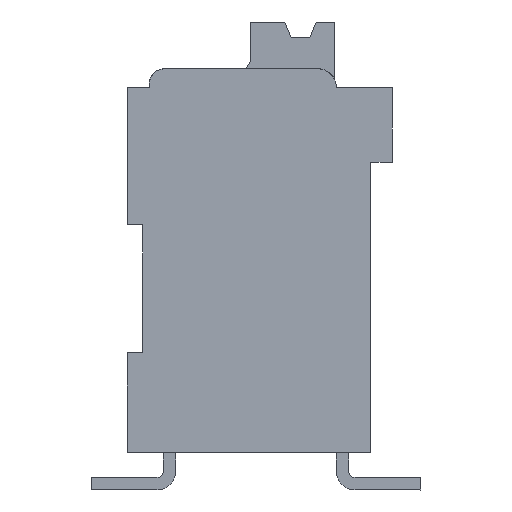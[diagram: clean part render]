
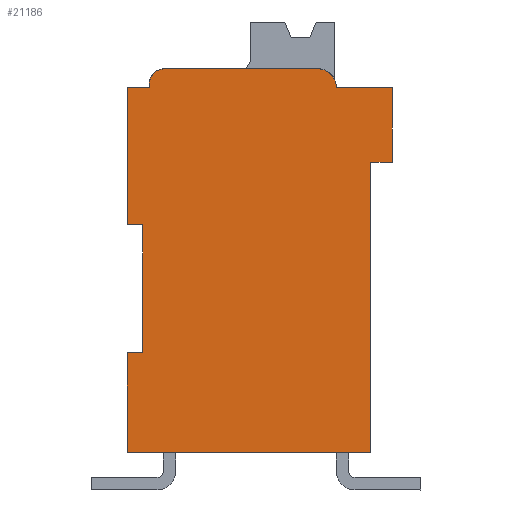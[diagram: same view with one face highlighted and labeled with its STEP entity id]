
A CAD part, left-side view. The second image highlights one B-rep face of the part: STEP entity #21186.
In plain terms, the highlighted planar face has unit normal (-1, 0, 0).
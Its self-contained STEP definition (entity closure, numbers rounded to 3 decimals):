
#578 = VECTOR ( 'NONE', #37339, 1000. ) ;
#753 = AXIS2_PLACEMENT_3D ( 'NONE', #3892, #11519, #34990 ) ;
#835 = ORIENTED_EDGE ( 'NONE', *, *, #33493, .T. ) ;
#995 = CIRCLE ( 'NONE', #6671, 0.6 ) ;
#1897 = EDGE_CURVE ( 'NONE', #21088, #11909, #20039, .T. ) ;
#2304 = CARTESIAN_POINT ( 'NONE',  ( -10.85, 2.95, 13.5 ) ) ;
#2538 = EDGE_CURVE ( 'NONE', #34051, #15810, #995, .T. ) ;
#3224 = VERTEX_POINT ( 'NONE', #19499 ) ;
#3319 = DIRECTION ( 'NONE',  ( 0., -1., 0. ) ) ;
#3892 = CARTESIAN_POINT ( 'NONE',  ( -10.85, -0.1, 7.35 ) ) ;
#4044 = VECTOR ( 'NONE', #31471, 1000. ) ;
#4407 = ORIENTED_EDGE ( 'NONE', *, *, #2538, .T. ) ;
#4498 = ORIENTED_EDGE ( 'NONE', *, *, #28040, .T. ) ;
#5163 = CARTESIAN_POINT ( 'NONE',  ( -10.85, 3.45, 13. ) ) ;
#5603 = CARTESIAN_POINT ( 'NONE',  ( -10.85, -3.65, 1.2 ) ) ;
#6014 = CARTESIAN_POINT ( 'NONE',  ( -10.85, -3.65, 10.5 ) ) ;
#6671 = AXIS2_PLACEMENT_3D ( 'NONE', #26460, #29789, #13228 ) ;
#6889 = CARTESIAN_POINT ( 'NONE',  ( -10.85, 3.65, 7.35 ) ) ;
#6948 = VECTOR ( 'NONE', #8437, 1000. ) ;
#7217 = DIRECTION ( 'NONE',  ( 0., 0., -1. ) ) ;
#7770 = CARTESIAN_POINT ( 'NONE',  ( -10.85, 4.15, 1.2 ) ) ;
#7844 = EDGE_CURVE ( 'NONE', #41520, #42283, #12097, .T. ) ;
#7984 = LINE ( 'NONE', #38860, #6948 ) ;
#7986 = LINE ( 'NONE', #24536, #40919 ) ;
#8273 = LINE ( 'NONE', #39142, #41023 ) ;
#8437 = DIRECTION ( 'NONE',  ( 0., 0., -1. ) ) ;
#8797 = ORIENTED_EDGE ( 'NONE', *, *, #10555, .T. ) ;
#8892 = AXIS2_PLACEMENT_3D ( 'NONE', #11899, #17952, #14804 ) ;
#9274 = EDGE_CURVE ( 'NONE', #24812, #34051, #7986, .T. ) ;
#10004 = ORIENTED_EDGE ( 'NONE', *, *, #1897, .T. ) ;
#10349 = CARTESIAN_POINT ( 'NONE',  ( -10.85, 3.45, 7.35 ) ) ;
#10555 = EDGE_CURVE ( 'NONE', #29286, #37280, #27344, .T. ) ;
#11106 = VERTEX_POINT ( 'NONE', #7770 ) ;
#11519 = DIRECTION ( 'NONE',  ( -1., 0., 0. ) ) ;
#11701 = VECTOR ( 'NONE', #26176, 1000. ) ;
#11899 = CARTESIAN_POINT ( 'NONE',  ( -10.85, 2.95, 13. ) ) ;
#11909 = VERTEX_POINT ( 'NONE', #36375 ) ;
#12097 = LINE ( 'NONE', #32220, #20949 ) ;
#12452 = VECTOR ( 'NONE', #28153, 1000. ) ;
#12617 = DIRECTION ( 'NONE',  ( 0., 0., -1. ) ) ;
#12812 = ORIENTED_EDGE ( 'NONE', *, *, #37848, .T. ) ;
#12828 = CARTESIAN_POINT ( 'NONE',  ( -10.85, 4.15, 7.35 ) ) ;
#13228 = DIRECTION ( 'NONE',  ( 0., 0., 1. ) ) ;
#13418 = LINE ( 'NONE', #30190, #578 ) ;
#14242 = LINE ( 'NONE', #20554, #12452 ) ;
#14804 = DIRECTION ( 'NONE',  ( 0., 0., 1. ) ) ;
#15077 = FACE_OUTER_BOUND ( 'NONE', #28515, .T. ) ;
#15394 = LINE ( 'NONE', #18552, #24734 ) ;
#15729 = EDGE_CURVE ( 'NONE', #16316, #29286, #23800, .T. ) ;
#15810 = VERTEX_POINT ( 'NONE', #29336 ) ;
#16083 = EDGE_CURVE ( 'NONE', #30170, #39753, #36644, .T. ) ;
#16186 = LINE ( 'NONE', #12828, #42834 ) ;
#16316 = VERTEX_POINT ( 'NONE', #2304 ) ;
#16726 = LINE ( 'NONE', #23660, #27528 ) ;
#16771 = EDGE_CURVE ( 'NONE', #37280, #3224, #14242, .T. ) ;
#17952 = DIRECTION ( 'NONE',  ( -1., 0., 0. ) ) ;
#18187 = ORIENTED_EDGE ( 'NONE', *, *, #34668, .T. ) ;
#18376 = DIRECTION ( 'NONE',  ( 0., -1., 0. ) ) ;
#18552 = CARTESIAN_POINT ( 'NONE',  ( -10.85, -4.35, 7.35 ) ) ;
#19372 = VERTEX_POINT ( 'NONE', #5603 ) ;
#19499 = CARTESIAN_POINT ( 'NONE',  ( -10.85, 4.15, 12.9 ) ) ;
#19953 = VECTOR ( 'NONE', #7217, 1000. ) ;
#20039 = LINE ( 'NONE', #40868, #29851 ) ;
#20554 = CARTESIAN_POINT ( 'NONE',  ( -10.85, 3.8, 12.9 ) ) ;
#20949 = VECTOR ( 'NONE', #18376, 1000. ) ;
#21088 = VERTEX_POINT ( 'NONE', #37487 ) ;
#21160 = DIRECTION ( 'NONE',  ( 0., 1., 0. ) ) ;
#21186 = ADVANCED_FACE ( 'NONE', ( #15077 ), #24496, .T. ) ;
#22129 = DIRECTION ( 'NONE',  ( 0., 1., 0. ) ) ;
#23660 = CARTESIAN_POINT ( 'NONE',  ( -10.85, -0.1, 1.2 ) ) ;
#23800 = CIRCLE ( 'NONE', #8892, 0.5 ) ;
#23890 = LINE ( 'NONE', #6889, #4044 ) ;
#24372 = CARTESIAN_POINT ( 'NONE',  ( -10.85, -2.55, 12.9 ) ) ;
#24496 = PLANE ( 'NONE',  #753 ) ;
#24536 = CARTESIAN_POINT ( 'NONE',  ( -10.85, -0.1, 12.9 ) ) ;
#24734 = VECTOR ( 'NONE', #35975, 1000. ) ;
#24812 = VERTEX_POINT ( 'NONE', #26297 ) ;
#25724 = CARTESIAN_POINT ( 'NONE',  ( -10.85, -0.1, 4.4 ) ) ;
#26176 = DIRECTION ( 'NONE',  ( 0., 1., 0. ) ) ;
#26297 = CARTESIAN_POINT ( 'NONE',  ( -10.85, -4.35, 12.9 ) ) ;
#26460 = CARTESIAN_POINT ( 'NONE',  ( -10.85, -1.95, 12.9 ) ) ;
#27344 = LINE ( 'NONE', #10349, #19953 ) ;
#27500 = ORIENTED_EDGE ( 'NONE', *, *, #38698, .T. ) ;
#27528 = VECTOR ( 'NONE', #3319, 1000. ) ;
#27795 = EDGE_CURVE ( 'NONE', #42283, #24812, #15394, .T. ) ;
#28040 = EDGE_CURVE ( 'NONE', #11909, #30170, #23890, .T. ) ;
#28042 = CARTESIAN_POINT ( 'NONE',  ( -10.85, 3.65, 4.4 ) ) ;
#28093 = ORIENTED_EDGE ( 'NONE', *, *, #16771, .T. ) ;
#28153 = DIRECTION ( 'NONE',  ( 0., 1., 0. ) ) ;
#28515 = EDGE_LOOP ( 'NONE', ( #28093, #18187, #10004, #4498, #41479, #835, #27500, #33825, #42875, #30407, #30684, #4407, #12812, #33109, #8797 ) ) ;
#29286 = VERTEX_POINT ( 'NONE', #5163 ) ;
#29336 = CARTESIAN_POINT ( 'NONE',  ( -10.85, -1.95, 13.5 ) ) ;
#29789 = DIRECTION ( 'NONE',  ( -1., 0., 0. ) ) ;
#29851 = VECTOR ( 'NONE', #30991, 1000. ) ;
#30170 = VERTEX_POINT ( 'NONE', #28042 ) ;
#30190 = CARTESIAN_POINT ( 'NONE',  ( -10.85, -3.65, 5.85 ) ) ;
#30407 = ORIENTED_EDGE ( 'NONE', *, *, #27795, .T. ) ;
#30684 = ORIENTED_EDGE ( 'NONE', *, *, #9274, .T. ) ;
#30991 = DIRECTION ( 'NONE',  ( 0., -1., 0. ) ) ;
#31471 = DIRECTION ( 'NONE',  ( 0., 0., -1. ) ) ;
#32220 = CARTESIAN_POINT ( 'NONE',  ( -10.85, -0.1, 10.5 ) ) ;
#33109 = ORIENTED_EDGE ( 'NONE', *, *, #15729, .T. ) ;
#33493 = EDGE_CURVE ( 'NONE', #39753, #11106, #7984, .T. ) ;
#33825 = ORIENTED_EDGE ( 'NONE', *, *, #33976, .F. ) ;
#33976 = EDGE_CURVE ( 'NONE', #41520, #19372, #13418, .T. ) ;
#34051 = VERTEX_POINT ( 'NONE', #24372 ) ;
#34668 = EDGE_CURVE ( 'NONE', #3224, #21088, #16186, .T. ) ;
#34990 = DIRECTION ( 'NONE',  ( 0., 0., -1. ) ) ;
#35975 = DIRECTION ( 'NONE',  ( 0., 0., 1. ) ) ;
#36375 = CARTESIAN_POINT ( 'NONE',  ( -10.85, 3.65, 8.5 ) ) ;
#36644 = LINE ( 'NONE', #25724, #11701 ) ;
#37280 = VERTEX_POINT ( 'NONE', #42272 ) ;
#37339 = DIRECTION ( 'NONE',  ( 0., 0., -1. ) ) ;
#37487 = CARTESIAN_POINT ( 'NONE',  ( -10.85, 4.15, 8.5 ) ) ;
#37708 = CARTESIAN_POINT ( 'NONE',  ( -10.85, 4.15, 4.4 ) ) ;
#37848 = EDGE_CURVE ( 'NONE', #15810, #16316, #8273, .T. ) ;
#38698 = EDGE_CURVE ( 'NONE', #11106, #19372, #16726, .T. ) ;
#38860 = CARTESIAN_POINT ( 'NONE',  ( -10.85, 4.15, 7.35 ) ) ;
#39142 = CARTESIAN_POINT ( 'NONE',  ( -10.85, -0.1, 13.5 ) ) ;
#39753 = VERTEX_POINT ( 'NONE', #37708 ) ;
#40868 = CARTESIAN_POINT ( 'NONE',  ( -10.85, -0.1, 8.5 ) ) ;
#40919 = VECTOR ( 'NONE', #21160, 1000. ) ;
#41023 = VECTOR ( 'NONE', #22129, 1000. ) ;
#41479 = ORIENTED_EDGE ( 'NONE', *, *, #16083, .T. ) ;
#41520 = VERTEX_POINT ( 'NONE', #6014 ) ;
#42272 = CARTESIAN_POINT ( 'NONE',  ( -10.85, 3.45, 12.9 ) ) ;
#42283 = VERTEX_POINT ( 'NONE', #42345 ) ;
#42345 = CARTESIAN_POINT ( 'NONE',  ( -10.85, -4.35, 10.5 ) ) ;
#42834 = VECTOR ( 'NONE', #12617, 1000. ) ;
#42875 = ORIENTED_EDGE ( 'NONE', *, *, #7844, .T. ) ;
